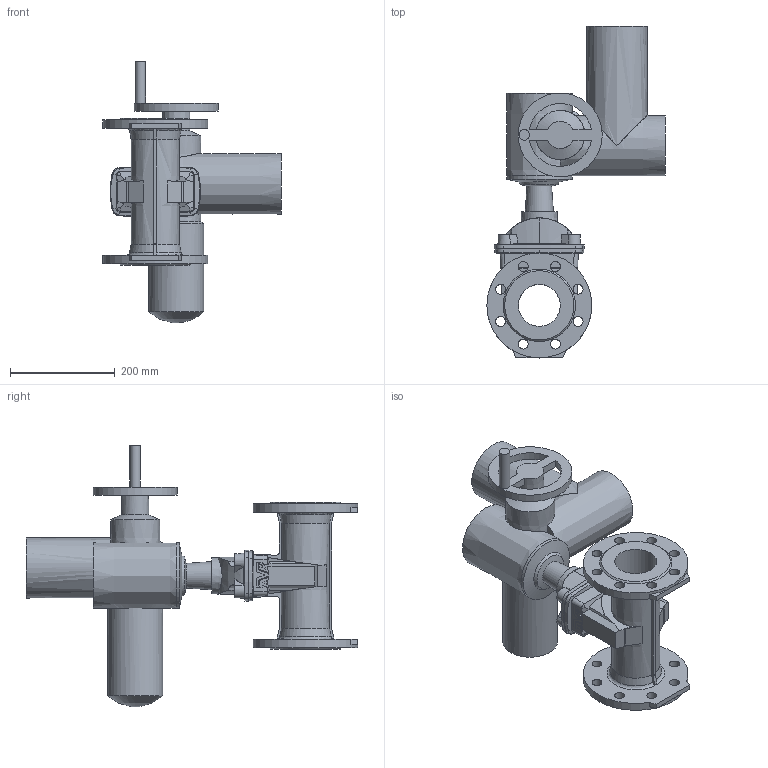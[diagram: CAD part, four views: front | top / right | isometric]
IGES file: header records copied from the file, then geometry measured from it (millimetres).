
Start section: SolidWorks IGES file using analytic representation for surfaces
Global section: file name: \\avksan2\techshare\PBM outline export from Enovia\O_15_72_DN080_X1XXX099_SA07.6_AA0.igs; native system: SolidWorks 2012; preprocessor: SolidWorks 2012; author: pbm; date: 170320.134550; units: inch
Bounding box: 340 x 633 x 499 mm (x, y, z)
Surface area: 701258.5 mm2 (no closed solid volume)
Topology: 0 solids, 0 shells, 301 faces, 1717 edges, 1654 vertices
Faces by surface type: revolution 163, bspline 138
